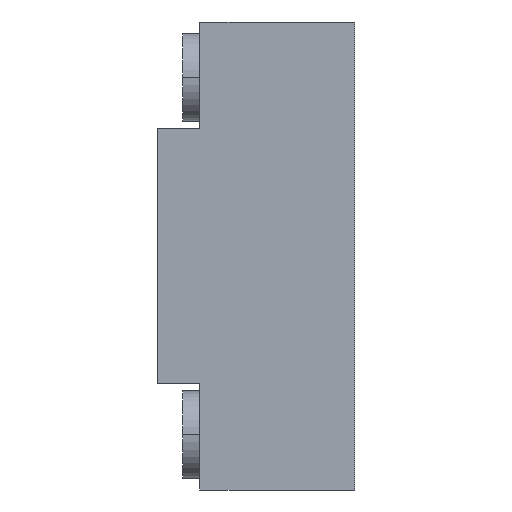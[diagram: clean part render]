
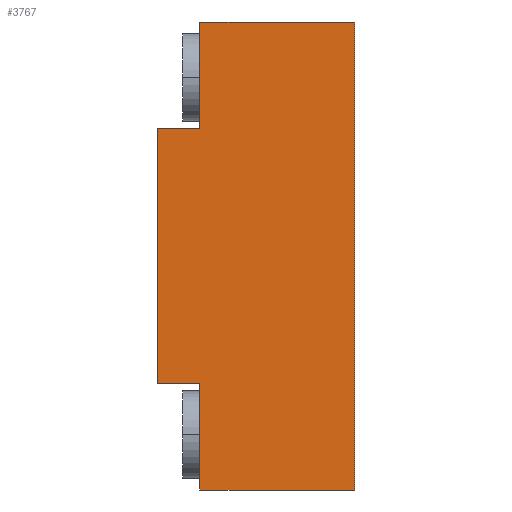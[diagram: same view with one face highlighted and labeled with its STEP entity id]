
A CAD part, left-side view. The second image highlights one B-rep face of the part: STEP entity #3767.
In plain terms, the highlighted planar face has unit normal (-1, 0, 0).
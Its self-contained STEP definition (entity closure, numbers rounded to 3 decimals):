
#2=DIRECTION('',(0.,1.,0.));
#3=VECTOR('',#2,18.2);
#4=CARTESIAN_POINT('',(-51.75,0.,-27.5));
#5=LINE('',#4,#3);
#6=DIRECTION('',(0.,0.,1.));
#7=VECTOR('',#6,12.5);
#8=CARTESIAN_POINT('',(-51.75,18.2,-27.5));
#9=LINE('',#8,#7);
#10=DIRECTION('',(0.,1.,0.));
#11=VECTOR('',#10,5.);
#12=CARTESIAN_POINT('',(-51.75,18.2,-15.));
#13=LINE('',#12,#11);
#14=DIRECTION('',(0.,0.,1.));
#15=VECTOR('',#14,30.);
#16=CARTESIAN_POINT('',(-51.75,23.2,-15.));
#17=LINE('',#16,#15);
#18=DIRECTION('',(0.,-1.,0.));
#19=VECTOR('',#18,5.);
#20=CARTESIAN_POINT('',(-51.75,23.2,15.));
#21=LINE('',#20,#19);
#22=DIRECTION('',(0.,0.,1.));
#23=VECTOR('',#22,12.5);
#24=CARTESIAN_POINT('',(-51.75,18.2,15.));
#25=LINE('',#24,#23);
#26=DIRECTION('',(0.,-1.,0.));
#27=VECTOR('',#26,18.2);
#28=CARTESIAN_POINT('',(-51.75,18.2,27.5));
#29=LINE('',#28,#27);
#30=DIRECTION('',(0.,0.,-1.));
#31=VECTOR('',#30,55.);
#32=CARTESIAN_POINT('',(-51.75,0.,27.5));
#33=LINE('',#32,#31);
#2878=CARTESIAN_POINT('',(-51.75,0.,-27.5));
#2879=CARTESIAN_POINT('',(-51.75,18.2,-27.5));
#2880=VERTEX_POINT('',#2878);
#2881=VERTEX_POINT('',#2879);
#2882=CARTESIAN_POINT('',(-51.75,18.2,-15.));
#2883=VERTEX_POINT('',#2882);
#2884=CARTESIAN_POINT('',(-51.75,23.2,-15.));
#2885=VERTEX_POINT('',#2884);
#2886=CARTESIAN_POINT('',(-51.75,23.2,15.));
#2887=VERTEX_POINT('',#2886);
#2888=CARTESIAN_POINT('',(-51.75,18.2,15.));
#2889=VERTEX_POINT('',#2888);
#2890=CARTESIAN_POINT('',(-51.75,18.2,27.5));
#2891=VERTEX_POINT('',#2890);
#2892=CARTESIAN_POINT('',(-51.75,0.,27.5));
#2893=VERTEX_POINT('',#2892);
#3744=CARTESIAN_POINT('',(-51.75,0.,0.));
#3745=DIRECTION('',(1.,0.,0.));
#3746=DIRECTION('',(0.,0.,-1.));
#3747=AXIS2_PLACEMENT_3D('',#3744,#3745,#3746);
#3748=PLANE('',#3747);
#3750=ORIENTED_EDGE('',*,*,#3749,.T.);
#3752=ORIENTED_EDGE('',*,*,#3751,.T.);
#3754=ORIENTED_EDGE('',*,*,#3753,.T.);
#3756=ORIENTED_EDGE('',*,*,#3755,.T.);
#3758=ORIENTED_EDGE('',*,*,#3757,.T.);
#3760=ORIENTED_EDGE('',*,*,#3759,.T.);
#3762=ORIENTED_EDGE('',*,*,#3761,.T.);
#3764=ORIENTED_EDGE('',*,*,#3763,.T.);
#3765=EDGE_LOOP('',(#3750,#3752,#3754,#3756,#3758,#3760,#3762,#3764));
#3766=FACE_OUTER_BOUND('',#3765,.F.);
#3767=ADVANCED_FACE('',(#3766),#3748,.F.);
#3749=EDGE_CURVE('',#2880,#2881,#5,.T.);
#3751=EDGE_CURVE('',#2881,#2883,#9,.T.);
#3753=EDGE_CURVE('',#2883,#2885,#13,.T.);
#3755=EDGE_CURVE('',#2885,#2887,#17,.T.);
#3757=EDGE_CURVE('',#2887,#2889,#21,.T.);
#3759=EDGE_CURVE('',#2889,#2891,#25,.T.);
#3761=EDGE_CURVE('',#2891,#2893,#29,.T.);
#3763=EDGE_CURVE('',#2893,#2880,#33,.T.);
